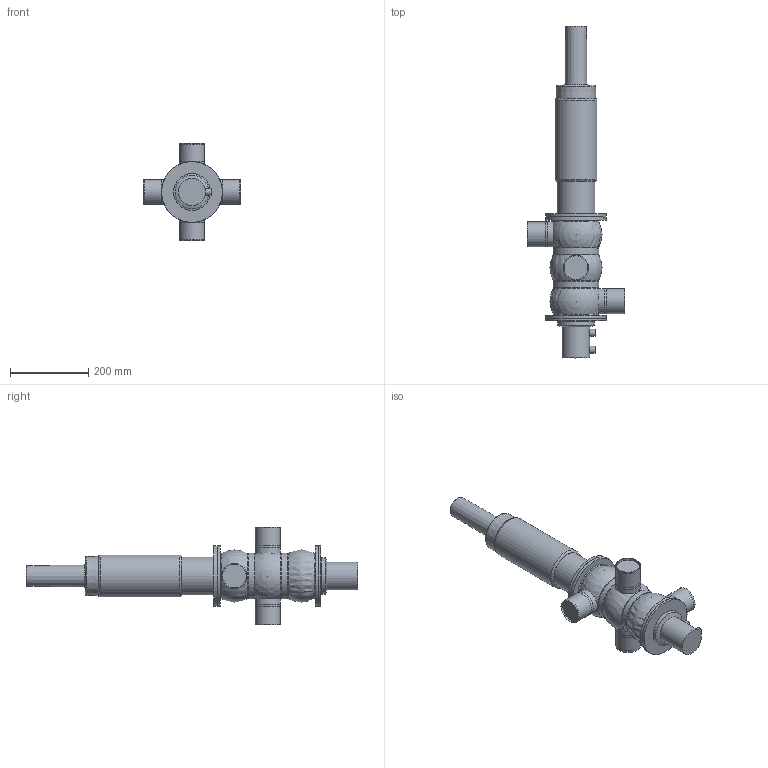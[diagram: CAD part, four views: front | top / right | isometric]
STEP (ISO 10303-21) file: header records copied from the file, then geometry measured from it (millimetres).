
FILE_DESCRIPTION(/* description */ ('Creo Elements/Direct Modeling STEP Export'),/* implementation_level */ '2;1');
FILE_NAME(/* name */ 'O:\Benutzer\Trimpop\DU4 SL\Makros\DU4 SL_VSM_stp\DU47(1-6-8-11)-2,5inch SL_VSM.stp',/* time_stamp */ '2021-10-04T13:36:50+02:00',/* author */ ('KERAMN'),/* organization */ (''),/* preprocessor_version */ 'ST-DEVELOPER v18.1',/* originating_system */ 'Autodesk Inventor 2020',/* authorisation */ '');
FILE_SCHEMA (('AUTOMOTIVE_DESIGN { 1 0 10303 214 3 1 1 }'));
Length unit declared in the file: millimetre
Products named in the file (6): DU47(1-6-8-11)-2,5inch SL_VSM; actuator_D4SL-100_yoke; DU47-2,5T(1-6-8-11)_Shrinkwrap_1; lid housing DU4-62 simplified; drain_pipe_62; D4_Prox._holder
Assembly tree (5 placements, depth 2):
  DU47(1-6-8-11)-2,5inch SL_VSM
    actuator_D4SL-100_yoke
    DU47-2,5T(1-6-8-11)_Shrinkwrap_1
    lid housing DU4-62 simplified
    drain_pipe_62
    D4_Prox._holder
Bounding box: 250 x 847.25 x 250 mm (x, y, z)
Volume: 7958974.1 mm3; surface area: 497416.6 mm2
Topology: 5 solids, 5 shells, 91 faces, 213 edges, 157 vertices
Faces by surface type: plane 38, cylinder 35, torus 7, cone 4, bspline 4, sphere 3
Full cylindrical faces by diameter (mm): 18 x2, 60 x1, 60.3 x4, 63.5 x4, 64.5 x4, 68 x1, 70 x1, 82.9 x1, 85 x1, 85.1 x1, 94 x1, 96 x1, 107 x1, 115.4 x6, 117 x2, 155 x4
Entity records: 3201 total; most frequent: CARTESIAN_POINT 735, DIRECTION 561, ORIENTED_EDGE 414, AXIS2_PLACEMENT_3D 260, EDGE_CURVE 207, CIRCLE 161, VERTEX_POINT 157, EDGE_LOOP 122
